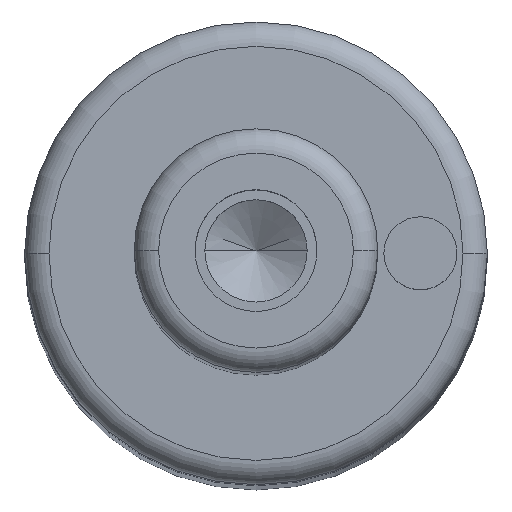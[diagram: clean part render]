
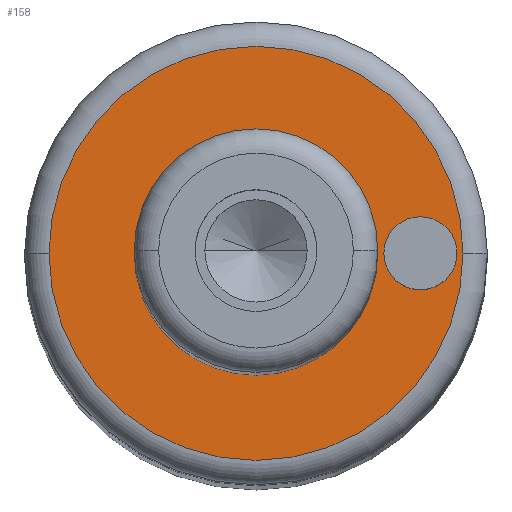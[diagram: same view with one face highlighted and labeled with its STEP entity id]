
A CAD part, top view. The second image highlights one B-rep face of the part: STEP entity #158.
In plain terms, the highlighted planar face has unit normal (0, 0, 1).
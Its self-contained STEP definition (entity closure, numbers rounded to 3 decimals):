
#105=PLANE('',#628);
#113=FACE_BOUND('',#229,.T.);
#114=FACE_BOUND('',#230,.T.);
#115=FACE_BOUND('',#231,.T.);
#158=ADVANCED_FACE('',(#113,#114,#115),#105,.T.);
#229=EDGE_LOOP('',(#375,#376));
#230=EDGE_LOOP('',(#377,#378));
#231=EDGE_LOOP('',(#379,#380));
#259=CIRCLE('',#596,5.);
#260=CIRCLE('',#598,5.);
#264=CIRCLE('',#603,8.5);
#265=CIRCLE('',#605,8.5);
#277=CIRCLE('',#626,1.5);
#278=CIRCLE('',#627,1.5);
#375=ORIENTED_EDGE('',*,*,#488,.F.);
#376=ORIENTED_EDGE('',*,*,#489,.F.);
#377=ORIENTED_EDGE('',*,*,#507,.F.);
#378=ORIENTED_EDGE('',*,*,#508,.F.);
#379=ORIENTED_EDGE('',*,*,#484,.T.);
#380=ORIENTED_EDGE('',*,*,#482,.T.);
#434=VERTEX_POINT('',#875);
#435=VERTEX_POINT('',#877);
#436=VERTEX_POINT('',#883);
#439=VERTEX_POINT('',#888);
#448=VERTEX_POINT('',#927);
#449=VERTEX_POINT('',#928);
#482=EDGE_CURVE('',#435,#434,#259,.T.);
#484=EDGE_CURVE('',#434,#435,#260,.T.);
#488=EDGE_CURVE('',#439,#436,#264,.T.);
#489=EDGE_CURVE('',#436,#439,#265,.T.);
#507=EDGE_CURVE('',#448,#449,#277,.T.);
#508=EDGE_CURVE('',#449,#448,#278,.T.);
#596=AXIS2_PLACEMENT_3D('',#876,#707,#708);
#598=AXIS2_PLACEMENT_3D('',#880,#712,#713);
#603=AXIS2_PLACEMENT_3D('',#889,#722,#723);
#605=AXIS2_PLACEMENT_3D('',#891,#726,#727);
#626=AXIS2_PLACEMENT_3D('',#926,#774,#775);
#627=AXIS2_PLACEMENT_3D('',#929,#776,#777);
#628=AXIS2_PLACEMENT_3D('',#930,#778,#779);
#707=DIRECTION('',(0.,0.,-1.));
#708=DIRECTION('',(0.,1.,0.));
#712=DIRECTION('',(0.,0.,-1.));
#713=DIRECTION('',(0.,-1.,0.));
#722=DIRECTION('',(0.,0.,-1.));
#723=DIRECTION('',(0.,1.,0.));
#726=DIRECTION('',(0.,0.,-1.));
#727=DIRECTION('',(0.,-1.,0.));
#774=DIRECTION('',(0.,0.,1.));
#775=DIRECTION('',(0.,1.,0.));
#776=DIRECTION('',(0.,0.,1.));
#777=DIRECTION('',(0.,-1.,0.));
#778=DIRECTION('',(0.,0.,1.));
#779=DIRECTION('',(0.,-1.,0.));
#875=CARTESIAN_POINT('',(-5.,0.,125.));
#876=CARTESIAN_POINT('',(0.,0.,125.));
#877=CARTESIAN_POINT('',(5.,0.,125.));
#880=CARTESIAN_POINT('',(0.,0.,125.));
#883=CARTESIAN_POINT('',(-8.5,0.,125.));
#888=CARTESIAN_POINT('',(8.5,0.,125.));
#889=CARTESIAN_POINT('',(0.,0.,125.));
#891=CARTESIAN_POINT('',(0.,0.,125.));
#926=CARTESIAN_POINT('',(6.75,0.,125.));
#927=CARTESIAN_POINT('',(5.25,0.,125.));
#928=CARTESIAN_POINT('',(8.25,0.,125.));
#929=CARTESIAN_POINT('',(6.75,0.,125.));
#930=CARTESIAN_POINT('',(0.,0.,125.));
